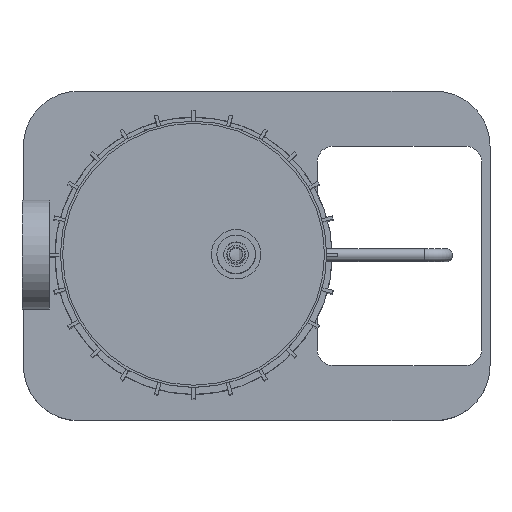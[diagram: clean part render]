
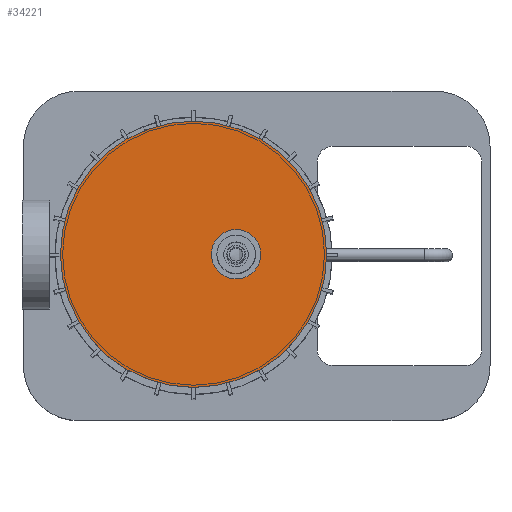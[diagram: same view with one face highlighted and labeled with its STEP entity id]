
A CAD part, top view. The second image highlights one B-rep face of the part: STEP entity #34221.
In plain terms, the highlighted planar face has unit normal (0, 0, 1).
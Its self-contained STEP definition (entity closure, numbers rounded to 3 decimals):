
#34105 = VERTEX_POINT('',#34106);
#34106 = CARTESIAN_POINT('',(48.5,0.,388.));
#34113 = CYLINDRICAL_SURFACE('',#34114,48.5);
#34114 = AXIS2_PLACEMENT_3D('',#34115,#34116,#34117);
#34115 = CARTESIAN_POINT('',(0.,0.,374.));
#34116 = DIRECTION('',(-0.,-0.,-1.));
#34117 = DIRECTION('',(1.,0.,0.));
#34132 = EDGE_CURVE('',#34105,#34105,#34133,.T.);
#34133 = SURFACE_CURVE('',#34134,(#34139,#34146),.PCURVE_S1.);
#34134 = CIRCLE('',#34135,48.5);
#34135 = AXIS2_PLACEMENT_3D('',#34136,#34137,#34138);
#34136 = CARTESIAN_POINT('',(0.,0.,388.));
#34137 = DIRECTION('',(0.,0.,1.));
#34138 = DIRECTION('',(1.,0.,0.));
#34139 = PCURVE('',#34113,#34140);
#34140 = DEFINITIONAL_REPRESENTATION('',(#34141),#34145);
#34141 = LINE('',#34142,#34143);
#34142 = CARTESIAN_POINT('',(-0.,-14.));
#34143 = VECTOR('',#34144,1.);
#34144 = DIRECTION('',(-1.,0.));
#34145 = ( GEOMETRIC_REPRESENTATION_CONTEXT(2) 
PARAMETRIC_REPRESENTATION_CONTEXT() REPRESENTATION_CONTEXT('2D SPACE',''
  ) );
#34146 = PCURVE('',#34147,#34152);
#34147 = PLANE('',#34148);
#34148 = AXIS2_PLACEMENT_3D('',#34149,#34150,#34151);
#34149 = CARTESIAN_POINT('',(0.,0.,388.)
  );
#34150 = DIRECTION('',(0.,0.,1.));
#34151 = DIRECTION('',(1.,0.,-0.));
#34152 = DEFINITIONAL_REPRESENTATION('',(#34153),#34157);
#34153 = CIRCLE('',#34154,48.5);
#34154 = AXIS2_PLACEMENT_2D('',#34155,#34156);
#34155 = CARTESIAN_POINT('',(0.,0.));
#34156 = DIRECTION('',(1.,0.));
#34157 = ( GEOMETRIC_REPRESENTATION_CONTEXT(2) 
PARAMETRIC_REPRESENTATION_CONTEXT() REPRESENTATION_CONTEXT('2D SPACE',''
  ) );
#34221 = ADVANCED_FACE('',(#34222,#34225),#34147,.T.);
#34222 = FACE_BOUND('',#34223,.T.);
#34223 = EDGE_LOOP('',(#34224));
#34224 = ORIENTED_EDGE('',*,*,#34132,.T.);
#34225 = FACE_BOUND('',#34226,.T.);
#34226 = EDGE_LOOP('',(#34227));
#34227 = ORIENTED_EDGE('',*,*,#34228,.T.);
#34228 = EDGE_CURVE('',#34229,#34229,#34231,.T.);
#34229 = VERTEX_POINT('',#34230);
#34230 = CARTESIAN_POINT('',(24.5,0.,388.));
#34231 = SURFACE_CURVE('',#34232,(#34237,#34248),.PCURVE_S1.);
#34232 = CIRCLE('',#34233,9.);
#34233 = AXIS2_PLACEMENT_3D('',#34234,#34235,#34236);
#34234 = CARTESIAN_POINT('',(15.5,0.,388.));
#34235 = DIRECTION('',(0.,0.,-1.));
#34236 = DIRECTION('',(1.,0.,0.));
#34237 = PCURVE('',#34147,#34238);
#34238 = DEFINITIONAL_REPRESENTATION('',(#34239),#34247);
#34239 = ( BOUNDED_CURVE() B_SPLINE_CURVE(2,(#34240,#34241,#34242,#34243
    ,#34244,#34245,#34246),.UNSPECIFIED.,.T.,.F.) 
B_SPLINE_CURVE_WITH_KNOTS((1,2,2,2,2,1),(-2.094,0.,
    2.094,4.189,6.283,8.378),
.UNSPECIFIED.) CURVE() GEOMETRIC_REPRESENTATION_ITEM() 
RATIONAL_B_SPLINE_CURVE((1.,0.5,1.,0.5,1.,0.5,1.)) REPRESENTATION_ITEM(
  '') );
#34240 = CARTESIAN_POINT('',(24.5,0.));
#34241 = CARTESIAN_POINT('',(24.5,-15.588));
#34242 = CARTESIAN_POINT('',(11.,-7.794));
#34243 = CARTESIAN_POINT('',(-2.5,0.));
#34244 = CARTESIAN_POINT('',(11.,7.794));
#34245 = CARTESIAN_POINT('',(24.5,15.588));
#34246 = CARTESIAN_POINT('',(24.5,0.));
#34247 = ( GEOMETRIC_REPRESENTATION_CONTEXT(2) 
PARAMETRIC_REPRESENTATION_CONTEXT() REPRESENTATION_CONTEXT('2D SPACE',''
  ) );
#34248 = PCURVE('',#34249,#34254);
#34249 = CYLINDRICAL_SURFACE('',#34250,9.);
#34250 = AXIS2_PLACEMENT_3D('',#34251,#34252,#34253);
#34251 = CARTESIAN_POINT('',(15.5,0.,386.));
#34252 = DIRECTION('',(-0.,-0.,-1.));
#34253 = DIRECTION('',(1.,0.,0.));
#34254 = DEFINITIONAL_REPRESENTATION('',(#34255),#34259);
#34255 = LINE('',#34256,#34257);
#34256 = CARTESIAN_POINT('',(-6.283,-2.));
#34257 = VECTOR('',#34258,1.);
#34258 = DIRECTION('',(1.,-0.));
#34259 = ( GEOMETRIC_REPRESENTATION_CONTEXT(2) 
PARAMETRIC_REPRESENTATION_CONTEXT() REPRESENTATION_CONTEXT('2D SPACE',''
  ) );
